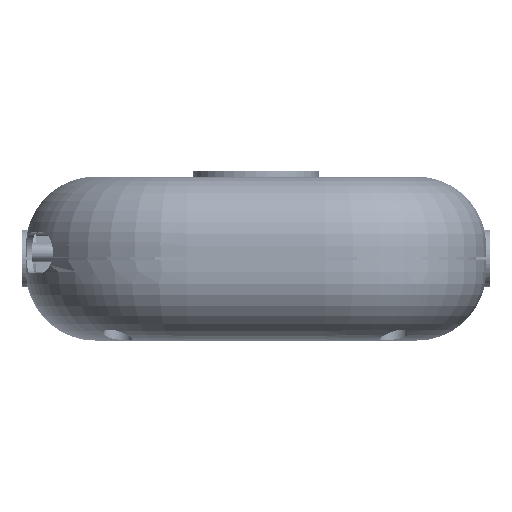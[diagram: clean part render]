
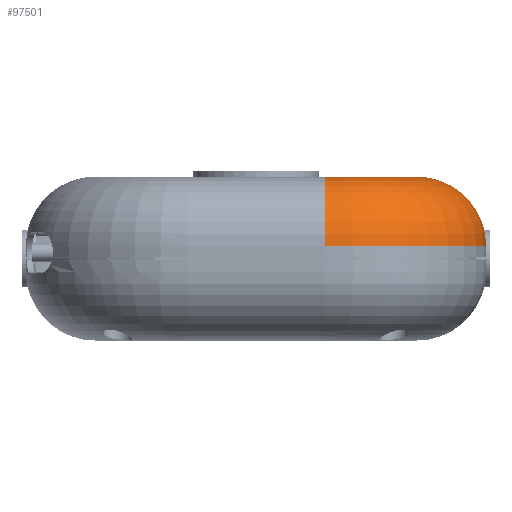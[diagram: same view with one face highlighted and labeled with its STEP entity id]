
A CAD part, front view. The second image highlights one B-rep face of the part: STEP entity #97501.
In plain terms, the highlighted toroidal (fillet/blend) face has major radius 16 mm and minor radius 12 mm.
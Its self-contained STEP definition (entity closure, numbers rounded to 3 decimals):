
#94285 = PLANE('',#94286);
#94286 = AXIS2_PLACEMENT_3D('',#94287,#94288,#94289);
#94287 = CARTESIAN_POINT('',(-40.,-64.,28.5));
#94288 = DIRECTION('',(0.,0.,1.));
#94289 = DIRECTION('',(1.,0.,-0.));
#94574 = CYLINDRICAL_SURFACE('',#94575,12.);
#94575 = AXIS2_PLACEMENT_3D('',#94576,#94577,#94578);
#94576 = CARTESIAN_POINT('',(12.,-52.,16.5));
#94577 = DIRECTION('',(-1.,-0.,-0.));
#94578 = DIRECTION('',(-0.,0.,1.));
#95004 = VERTEX_POINT('',#95005);
#95005 = CARTESIAN_POINT('',(12.,-52.,28.5));
#95026 = EDGE_CURVE('',#95027,#95004,#95029,.T.);
#95027 = VERTEX_POINT('',#95028);
#95028 = CARTESIAN_POINT('',(28.,-36.,28.5));
#95029 = SURFACE_CURVE('',#95030,(#95035,#95046),.PCURVE_S1.);
#95030 = CIRCLE('',#95031,16.);
#95031 = AXIS2_PLACEMENT_3D('',#95032,#95033,#95034);
#95032 = CARTESIAN_POINT('',(12.,-36.,28.5));
#95033 = DIRECTION('',(0.,0.,-1.));
#95034 = DIRECTION('',(1.,0.,0.));
#95035 = PCURVE('',#94285,#95036);
#95036 = DEFINITIONAL_REPRESENTATION('',(#95037),#95045);
#95037 = ( BOUNDED_CURVE() B_SPLINE_CURVE(2,(#95038,#95039,#95040,#95041
    ,#95042,#95043,#95044),.UNSPECIFIED.,.T.,.F.) 
B_SPLINE_CURVE_WITH_KNOTS((1,2,2,2,2,1),(-2.094,0.,
    2.094,4.189,6.283,8.378),
.UNSPECIFIED.) CURVE() GEOMETRIC_REPRESENTATION_ITEM() 
RATIONAL_B_SPLINE_CURVE((1.,0.5,1.,0.5,1.,0.5,1.)) REPRESENTATION_ITEM(
  '') );
#95038 = CARTESIAN_POINT('',(68.,28.));
#95039 = CARTESIAN_POINT('',(68.,0.287));
#95040 = CARTESIAN_POINT('',(44.,14.144));
#95041 = CARTESIAN_POINT('',(20.,28.));
#95042 = CARTESIAN_POINT('',(44.,41.856));
#95043 = CARTESIAN_POINT('',(68.,55.713));
#95044 = CARTESIAN_POINT('',(68.,28.));
#95045 = ( GEOMETRIC_REPRESENTATION_CONTEXT(2) 
PARAMETRIC_REPRESENTATION_CONTEXT() REPRESENTATION_CONTEXT('2D SPACE',''
  ) );
#95046 = PCURVE('',#95047,#95052);
#95047 = TOROIDAL_SURFACE('',#95048,16.,12.);
#95048 = AXIS2_PLACEMENT_3D('',#95049,#95050,#95051);
#95049 = CARTESIAN_POINT('',(12.,-36.,16.5));
#95050 = DIRECTION('',(-0.,-0.,-1.));
#95051 = DIRECTION('',(1.,0.,0.));
#95052 = DEFINITIONAL_REPRESENTATION('',(#95053),#95057);
#95053 = LINE('',#95054,#95055);
#95054 = CARTESIAN_POINT('',(0.,4.712));
#95055 = VECTOR('',#95056,1.);
#95056 = DIRECTION('',(1.,0.));
#95057 = ( GEOMETRIC_REPRESENTATION_CONTEXT(2) 
PARAMETRIC_REPRESENTATION_CONTEXT() REPRESENTATION_CONTEXT('2D SPACE',''
  ) );
#95075 = CYLINDRICAL_SURFACE('',#95076,12.);
#95076 = AXIS2_PLACEMENT_3D('',#95077,#95078,#95079);
#95077 = CARTESIAN_POINT('',(28.,36.,16.5));
#95078 = DIRECTION('',(-0.,-1.,-0.));
#95079 = DIRECTION('',(0.,0.,1.));
#96014 = VERTEX_POINT('',#96015);
#96015 = CARTESIAN_POINT('',(12.,-64.,16.5));
#96041 = EDGE_CURVE('',#95004,#96014,#96042,.T.);
#96042 = SURFACE_CURVE('',#96043,(#96048,#96054),.PCURVE_S1.);
#96043 = CIRCLE('',#96044,12.);
#96044 = AXIS2_PLACEMENT_3D('',#96045,#96046,#96047);
#96045 = CARTESIAN_POINT('',(12.,-52.,16.5));
#96046 = DIRECTION('',(1.,0.,0.));
#96047 = DIRECTION('',(0.,-1.,0.));
#96048 = PCURVE('',#94574,#96049);
#96049 = DEFINITIONAL_REPRESENTATION('',(#96050),#96053);
#96050 = B_SPLINE_CURVE_WITH_KNOTS('',1,(#96051,#96052),.UNSPECIFIED.,
  .F.,.F.,(2,2),(4.712,6.283),
  .PIECEWISE_BEZIER_KNOTS.);
#96051 = CARTESIAN_POINT('',(6.283,0.));
#96052 = CARTESIAN_POINT('',(4.712,0.));
#96053 = ( GEOMETRIC_REPRESENTATION_CONTEXT(2) 
PARAMETRIC_REPRESENTATION_CONTEXT() REPRESENTATION_CONTEXT('2D SPACE',''
  ) );
#96054 = PCURVE('',#95047,#96055);
#96055 = DEFINITIONAL_REPRESENTATION('',(#96056),#96059);
#96056 = B_SPLINE_CURVE_WITH_KNOTS('',1,(#96057,#96058),.UNSPECIFIED.,
  .F.,.F.,(2,2),(4.712,6.283),
  .PIECEWISE_BEZIER_KNOTS.);
#96057 = CARTESIAN_POINT('',(1.571,4.712));
#96058 = CARTESIAN_POINT('',(1.571,6.283));
#96059 = ( GEOMETRIC_REPRESENTATION_CONTEXT(2) 
PARAMETRIC_REPRESENTATION_CONTEXT() REPRESENTATION_CONTEXT('2D SPACE',''
  ) );
#96986 = EDGE_CURVE('',#95027,#96987,#96989,.T.);
#96987 = VERTEX_POINT('',#96988);
#96988 = CARTESIAN_POINT('',(40.,-36.,16.5));
#96989 = SURFACE_CURVE('',#96990,(#96995,#97001),.PCURVE_S1.);
#96990 = CIRCLE('',#96991,12.);
#96991 = AXIS2_PLACEMENT_3D('',#96992,#96993,#96994);
#96992 = CARTESIAN_POINT('',(28.,-36.,16.5));
#96993 = DIRECTION('',(0.,1.,0.));
#96994 = DIRECTION('',(0.,-0.,1.));
#96995 = PCURVE('',#95075,#96996);
#96996 = DEFINITIONAL_REPRESENTATION('',(#96997),#97000);
#96997 = B_SPLINE_CURVE_WITH_KNOTS('',1,(#96998,#96999),.UNSPECIFIED.,
  .F.,.F.,(2,2),(0.,1.571),.PIECEWISE_BEZIER_KNOTS.);
#96998 = CARTESIAN_POINT('',(6.283,72.));
#96999 = CARTESIAN_POINT('',(4.712,72.));
#97000 = ( GEOMETRIC_REPRESENTATION_CONTEXT(2) 
PARAMETRIC_REPRESENTATION_CONTEXT() REPRESENTATION_CONTEXT('2D SPACE',''
  ) );
#97001 = PCURVE('',#95047,#97002);
#97002 = DEFINITIONAL_REPRESENTATION('',(#97003),#97006);
#97003 = B_SPLINE_CURVE_WITH_KNOTS('',1,(#97004,#97005),.UNSPECIFIED.,
  .F.,.F.,(2,2),(0.,1.571),.PIECEWISE_BEZIER_KNOTS.);
#97004 = CARTESIAN_POINT('',(0.,4.712));
#97005 = CARTESIAN_POINT('',(0.,6.283));
#97006 = ( GEOMETRIC_REPRESENTATION_CONTEXT(2) 
PARAMETRIC_REPRESENTATION_CONTEXT() REPRESENTATION_CONTEXT('2D SPACE',''
  ) );
#97501 = ADVANCED_FACE('',(#97502),#95047,.T.);
#97502 = FACE_BOUND('',#97503,.T.);
#97503 = EDGE_LOOP('',(#97504,#97505,#97506,#97507));
#97504 = ORIENTED_EDGE('',*,*,#96986,.F.);
#97505 = ORIENTED_EDGE('',*,*,#95026,.T.);
#97506 = ORIENTED_EDGE('',*,*,#96041,.T.);
#97507 = ORIENTED_EDGE('',*,*,#97508,.F.);
#97508 = EDGE_CURVE('',#96987,#96014,#97509,.T.);
#97509 = SURFACE_CURVE('',#97510,(#97515,#97522),.PCURVE_S1.);
#97510 = CIRCLE('',#97511,28.);
#97511 = AXIS2_PLACEMENT_3D('',#97512,#97513,#97514);
#97512 = CARTESIAN_POINT('',(12.,-36.,16.5));
#97513 = DIRECTION('',(0.,0.,-1.));
#97514 = DIRECTION('',(1.,0.,0.));
#97515 = PCURVE('',#95047,#97516);
#97516 = DEFINITIONAL_REPRESENTATION('',(#97517),#97521);
#97517 = LINE('',#97518,#97519);
#97518 = CARTESIAN_POINT('',(0.,6.283));
#97519 = VECTOR('',#97520,1.);
#97520 = DIRECTION('',(1.,0.));
#97521 = ( GEOMETRIC_REPRESENTATION_CONTEXT(2) 
PARAMETRIC_REPRESENTATION_CONTEXT() REPRESENTATION_CONTEXT('2D SPACE',''
  ) );
#97522 = PCURVE('',#97523,#97528);
#97523 = CYLINDRICAL_SURFACE('',#97524,28.);
#97524 = AXIS2_PLACEMENT_3D('',#97525,#97526,#97527);
#97525 = CARTESIAN_POINT('',(12.,-36.,0.));
#97526 = DIRECTION('',(0.,0.,1.));
#97527 = DIRECTION('',(1.,0.,-0.));
#97528 = DEFINITIONAL_REPRESENTATION('',(#97529),#97533);
#97529 = LINE('',#97530,#97531);
#97530 = CARTESIAN_POINT('',(6.283,16.5));
#97531 = VECTOR('',#97532,1.);
#97532 = DIRECTION('',(-1.,0.));
#97533 = ( GEOMETRIC_REPRESENTATION_CONTEXT(2) 
PARAMETRIC_REPRESENTATION_CONTEXT() REPRESENTATION_CONTEXT('2D SPACE',''
  ) );
